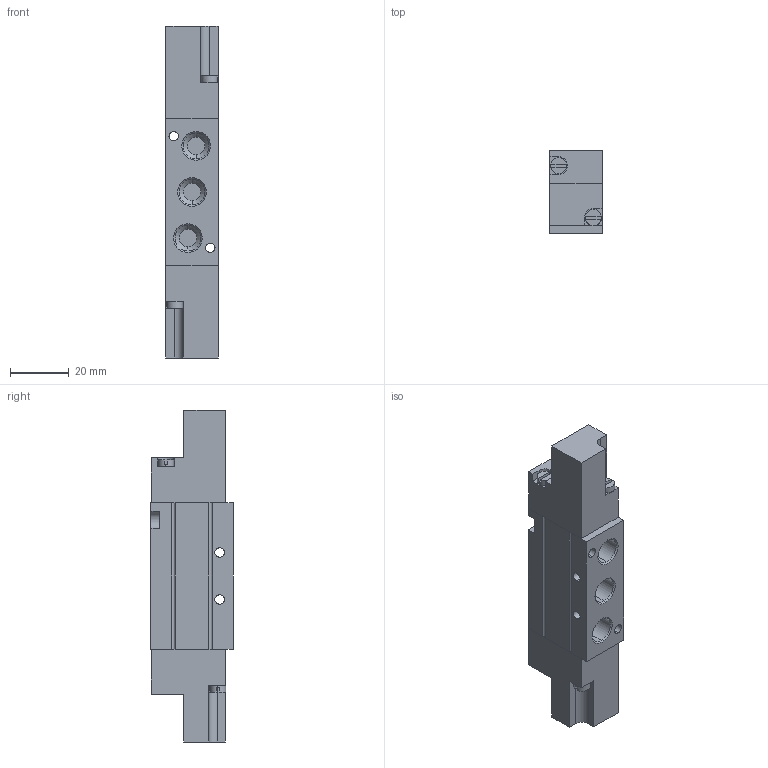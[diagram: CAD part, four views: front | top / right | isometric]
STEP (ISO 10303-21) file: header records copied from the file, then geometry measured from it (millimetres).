
FILE_DESCRIPTION((''),'2;1');
FILE_NAME('0820038953','2015-08-26T',('vol1hc'),(''),'PRO/ENGINEER BY PARAMETRIC TECHNOLOGY CORPORATION, 2012421','PRO/ENGINEER BY PARAMETRIC TECHNOLOGY CORPORATION, 2012421','');
FILE_SCHEMA(('CONFIG_CONTROL_DESIGN','SHAPE_APPEARANCE_LAYERS_GROUPS'));
Length unit declared in the file: millimetre
Products named in the file (1): 0820038953
Bounding box: 18 x 28 x 113 mm (x, y, z)
Volume: 42010.7 mm3; surface area: 12704.4 mm2
Topology: 1 solids, 1 shells, 139 faces, 350 edges, 220 vertices
Faces by surface type: plane 83, cylinder 36, cone 20
Entity records: 4226 total; most frequent: DIRECTION 756, CARTESIAN_POINT 709, ORIENTED_EDGE 700, EDGE_CURVE 350, AXIS2_PLACEMENT_3D 267, VECTOR 222, LINE 222, VERTEX_POINT 220
